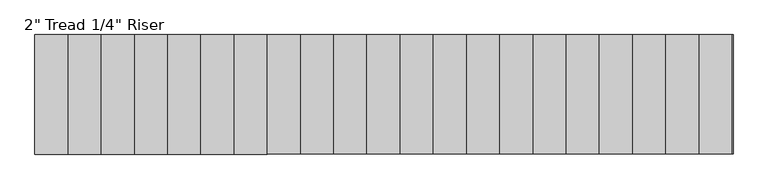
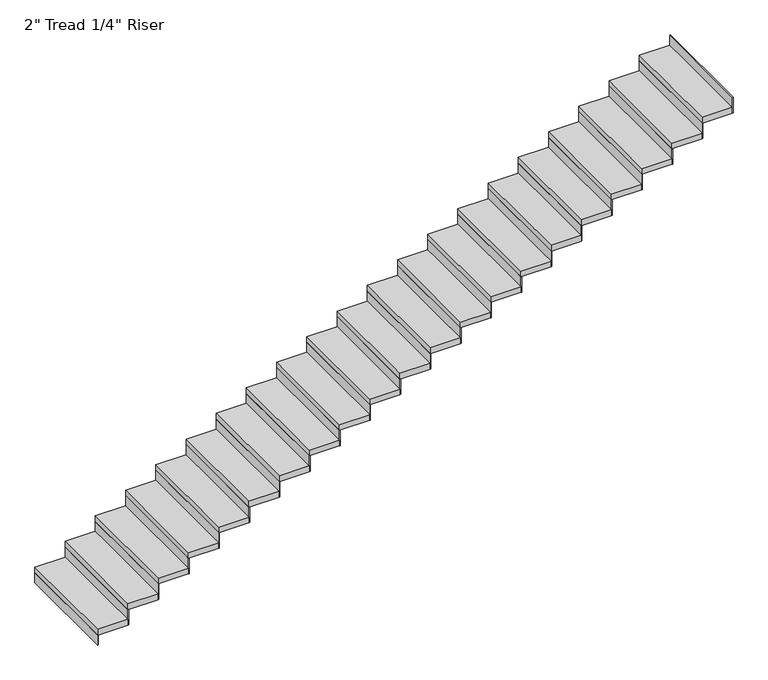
"""IFC4 building model written with IfcOpenShell, lengths in millimetres: stair flight geometry."""

from ifc_helpers import new_model, si_unit, frame, origin, origin_with_axes, place, context, project, spatial, polyline, outline, extrude, source, transform, mapped, element, save


def stair_flight_cfc8582b(model_context):
    return source(origin(), model_context, "Body", "SweptSolid", [
        extrude(outline(polyline([(60465.2405484, 34007.0395941), (60458.8905484, 34007.0395941), (60458.8905484, 34921.4395941), (60465.2405484, 34921.4395941), (60465.2405484, 34007.0395941)])), origin_with_axes(), (0.0, 0.0, 1.0), 87.7454545),
        extrude(outline(polyline([(60712.8905484, 34921.4395941), (60712.8905484, 34007.0395941), (60458.8905484, 34007.0395941), (60458.8905484, 34921.4395941), (60712.8905484, 34921.4395941)])), frame((0.0, 0.0, 87.7454545), z_axis=(0.0, 0.0, 1.0), x_axis=(1.0, 0.0, 0.0)), (0.0, 0.0, 1.0), 50.8),
        extrude(outline(polyline([(60719.2405484, 34007.0395941), (60712.8905484, 34007.0395941), (60712.8905484, 34921.4395941), (60719.2405484, 34921.4395941), (60719.2405484, 34007.0395941)])), frame((0.0, 0.0, 87.7454545), z_axis=(0.0, 0.0, 1.0), x_axis=(1.0, 0.0, 0.0)), (0.0, 0.0, 1.0), 138.5454545),
        extrude(outline(polyline([(60966.8905484, 34921.4395941), (60966.8905484, 34007.0395941), (60712.8905484, 34007.0395941), (60712.8905484, 34921.4395941), (60966.8905484, 34921.4395941)])), frame((0.0, 0.0, 226.2909091), z_axis=(0.0, 0.0, 1.0), x_axis=(1.0, 0.0, 0.0)), (0.0, 0.0, 1.0), 50.8),
        extrude(outline(polyline([(60973.2405484, 34007.0395941), (60966.8905484, 34007.0395941), (60966.8905484, 34921.4395941), (60973.2405484, 34921.4395941), (60973.2405484, 34007.0395941)])), frame((0.0, 0.0, 226.2909091), z_axis=(0.0, 0.0, 1.0), x_axis=(1.0, 0.0, 0.0)), (0.0, 0.0, 1.0), 138.5454545),
        extrude(outline(polyline([(61220.8905484, 34921.4395941), (61220.8905484, 34007.0395941), (60966.8905484, 34007.0395941), (60966.8905484, 34921.4395941), (61220.8905484, 34921.4395941)])), frame((0.0, 0.0, 364.8363636), z_axis=(0.0, 0.0, 1.0), x_axis=(1.0, 0.0, 0.0)), (0.0, 0.0, 1.0), 50.8),
        extrude(outline(polyline([(61227.2405484, 34007.0395941), (61220.8905484, 34007.0395941), (61220.8905484, 34921.4395941), (61227.2405484, 34921.4395941), (61227.2405484, 34007.0395941)])), frame((0.0, 0.0, 364.8363636), z_axis=(0.0, 0.0, 1.0), x_axis=(1.0, 0.0, 0.0)), (0.0, 0.0, 1.0), 138.5454545),
        extrude(outline(polyline([(61474.8905484, 34921.4395941), (61474.8905484, 34007.0395941), (61220.8905484, 34007.0395941), (61220.8905484, 34921.4395941), (61474.8905484, 34921.4395941)])), frame((0.0, 0.0, 503.3818182), z_axis=(0.0, 0.0, 1.0), x_axis=(1.0, 0.0, 0.0)), (0.0, 0.0, 1.0), 50.8),
        extrude(outline(polyline([(61481.2405484, 34007.0395941), (61474.8905484, 34007.0395941), (61474.8905484, 34921.4395941), (61481.2405484, 34921.4395941), (61481.2405484, 34007.0395941)])), frame((0.0, 0.0, 503.3818182), z_axis=(0.0, 0.0, 1.0), x_axis=(1.0, 0.0, 0.0)), (0.0, 0.0, 1.0), 138.5454545),
        extrude(outline(polyline([(61728.8905484, 34921.4395941), (61728.8905484, 34007.0395941), (61474.8905484, 34007.0395941), (61474.8905484, 34921.4395941), (61728.8905484, 34921.4395941)])), frame((0.0, 0.0, 641.9272727), z_axis=(0.0, 0.0, 1.0), x_axis=(1.0, 0.0, 0.0)), (0.0, 0.0, 1.0), 50.8),
        extrude(outline(polyline([(61735.2405484, 34007.0395941), (61728.8905484, 34007.0395941), (61728.8905484, 34921.4395941), (61735.2405484, 34921.4395941), (61735.2405484, 34007.0395941)])), frame((0.0, 0.0, 641.9272727), z_axis=(0.0, 0.0, 1.0), x_axis=(1.0, 0.0, 0.0)), (0.0, 0.0, 1.0), 138.5454545),
        extrude(outline(polyline([(61982.8905484, 34921.4395941), (61982.8905484, 34007.0395941), (61728.8905484, 34007.0395941), (61728.8905484, 34921.4395941), (61982.8905484, 34921.4395941)])), frame((0.0, 0.0, 780.4727273), z_axis=(0.0, 0.0, 1.0), x_axis=(1.0, 0.0, 0.0)), (0.0, 0.0, 1.0), 50.8),
        extrude(outline(polyline([(61989.2405484, 34007.0395941), (61982.8905484, 34007.0395941), (61982.8905484, 34921.4395941), (61989.2405484, 34921.4395941), (61989.2405484, 34007.0395941)])), frame((0.0, 0.0, 780.4727273), z_axis=(0.0, 0.0, 1.0), x_axis=(1.0, 0.0, 0.0)), (0.0, 0.0, 1.0), 138.5454545),
        extrude(outline(polyline([(62236.8905484, 34921.4395941), (62236.8905484, 34007.0395941), (61982.8905484, 34007.0395941), (61982.8905484, 34921.4395941), (62236.8905484, 34921.4395941)])), frame((0.0, 0.0, 919.0181818), z_axis=(0.0, 0.0, 1.0), x_axis=(1.0, 0.0, 0.0)), (0.0, 0.0, 1.0), 50.8),
        extrude(outline(polyline([(62243.2405484, 34007.0395941), (62236.8905484, 34007.0395941), (62236.8905484, 34921.4395941), (62243.2405484, 34921.4395941), (62243.2405484, 34007.0395941)])), frame((0.0, 0.0, 919.0181818), z_axis=(0.0, 0.0, 1.0), x_axis=(1.0, 0.0, 0.0)), (0.0, 0.0, 1.0), 138.5454545),
        extrude(outline(polyline([(62490.8905484, 34921.4395941), (62490.8905484, 34007.0395941), (62236.8905484, 34007.0395941), (62236.8905484, 34921.4395941), (62490.8905484, 34921.4395941)])), frame((0.0, 0.0, 1057.5636364), z_axis=(0.0, 0.0, 1.0), x_axis=(1.0, 0.0, 0.0)), (0.0, 0.0, 1.0), 50.8),
        extrude(outline(polyline([(62497.2405484, 34007.0395941), (62490.8905484, 34007.0395941), (62490.8905484, 34921.4395941), (62497.2405484, 34921.4395941), (62497.2405484, 34007.0395941)])), frame((0.0, 0.0, 1057.5636364), z_axis=(0.0, 0.0, 1.0), x_axis=(1.0, 0.0, 0.0)), (0.0, 0.0, 1.0), 138.5454545),
        extrude(outline(polyline([(62744.8905484, 34921.4395941), (62744.8905484, 34007.0395941), (62490.8905484, 34007.0395941), (62490.8905484, 34921.4395941), (62744.8905484, 34921.4395941)])), frame((0.0, 0.0, 1196.1090909), z_axis=(0.0, 0.0, 1.0), x_axis=(1.0, 0.0, 0.0)), (0.0, 0.0, 1.0), 50.8),
        extrude(outline(polyline([(62751.2405484, 34007.0395941), (62744.8905484, 34007.0395941), (62744.8905484, 34921.4395941), (62751.2405484, 34921.4395941), (62751.2405484, 34007.0395941)])), frame((0.0, 0.0, 1196.1090909), z_axis=(0.0, 0.0, 1.0), x_axis=(1.0, 0.0, 0.0)), (0.0, 0.0, 1.0), 138.5454545),
        extrude(outline(polyline([(62998.8905484, 34921.4395941), (62998.8905484, 34007.0395941), (62744.8905484, 34007.0395941), (62744.8905484, 34921.4395941), (62998.8905484, 34921.4395941)])), frame((0.0, 0.0, 1334.6545455), z_axis=(0.0, 0.0, 1.0), x_axis=(1.0, 0.0, 0.0)), (0.0, 0.0, 1.0), 50.8),
        extrude(outline(polyline([(63005.2405484, 34007.0395941), (62998.8905484, 34007.0395941), (62998.8905484, 34921.4395941), (63005.2405484, 34921.4395941), (63005.2405484, 34007.0395941)])), frame((0.0, 0.0, 1334.6545455), z_axis=(0.0, 0.0, 1.0), x_axis=(1.0, 0.0, 0.0)), (0.0, 0.0, 1.0), 138.5454545),
        extrude(outline(polyline([(63252.8905484, 34921.4395941), (63252.8905484, 34007.0395941), (62998.8905484, 34007.0395941), (62998.8905484, 34921.4395941), (63252.8905484, 34921.4395941)])), frame((0.0, 0.0, 1473.2), z_axis=(0.0, 0.0, 1.0), x_axis=(1.0, 0.0, 0.0)), (0.0, 0.0, 1.0), 50.8),
        extrude(outline(polyline([(63259.2405484, 34007.0395941), (63252.8905484, 34007.0395941), (63252.8905484, 34921.4395941), (63259.2405484, 34921.4395941), (63259.2405484, 34007.0395941)])), frame((0.0, 0.0, 1473.2), z_axis=(0.0, 0.0, 1.0), x_axis=(1.0, 0.0, 0.0)), (0.0, 0.0, 1.0), 138.5454545),
        extrude(outline(polyline([(63506.8905484, 34921.4395941), (63506.8905484, 34007.0395941), (63252.8905484, 34007.0395941), (63252.8905484, 34921.4395941), (63506.8905484, 34921.4395941)])), frame((0.0, 0.0, 1611.7454545), z_axis=(0.0, 0.0, 1.0), x_axis=(1.0, 0.0, 0.0)), (0.0, 0.0, 1.0), 50.8),
        extrude(outline(polyline([(63513.2405484, 34007.0395941), (63506.8905484, 34007.0395941), (63506.8905484, 34921.4395941), (63513.2405484, 34921.4395941), (63513.2405484, 34007.0395941)])), frame((0.0, 0.0, 1611.7454545), z_axis=(0.0, 0.0, 1.0), x_axis=(1.0, 0.0, 0.0)), (0.0, 0.0, 1.0), 138.5454545),
        extrude(outline(polyline([(63760.8905484, 34921.4395941), (63760.8905484, 34007.0395941), (63506.8905484, 34007.0395941), (63506.8905484, 34921.4395941), (63760.8905484, 34921.4395941)])), frame((0.0, 0.0, 1750.2909091), z_axis=(0.0, 0.0, 1.0), x_axis=(1.0, 0.0, 0.0)), (0.0, 0.0, 1.0), 50.8),
        extrude(outline(polyline([(63767.2405484, 34007.0395941), (63760.8905484, 34007.0395941), (63760.8905484, 34921.4395941), (63767.2405484, 34921.4395941), (63767.2405484, 34007.0395941)])), frame((0.0, 0.0, 1750.2909091), z_axis=(0.0, 0.0, 1.0), x_axis=(1.0, 0.0, 0.0)), (0.0, 0.0, 1.0), 138.5454545),
        extrude(outline(polyline([(64014.8905484, 34921.4395941), (64014.8905484, 34007.0395941), (63760.8905484, 34007.0395941), (63760.8905484, 34921.4395941), (64014.8905484, 34921.4395941)])), frame((0.0, 0.0, 1888.8363636), z_axis=(0.0, 0.0, 1.0), x_axis=(1.0, 0.0, 0.0)), (0.0, 0.0, 1.0), 50.8),
        extrude(outline(polyline([(64021.2405484, 34007.0395941), (64014.8905484, 34007.0395941), (64014.8905484, 34921.4395941), (64021.2405484, 34921.4395941), (64021.2405484, 34007.0395941)])), frame((0.0, 0.0, 1888.8363636), z_axis=(0.0, 0.0, 1.0), x_axis=(1.0, 0.0, 0.0)), (0.0, 0.0, 1.0), 138.5454545),
        extrude(outline(polyline([(64268.8905484, 34921.4395941), (64268.8905484, 34007.0395941), (64014.8905484, 34007.0395941), (64014.8905484, 34921.4395941), (64268.8905484, 34921.4395941)])), frame((0.0, 0.0, 2027.3818182), z_axis=(0.0, 0.0, 1.0), x_axis=(1.0, 0.0, 0.0)), (0.0, 0.0, 1.0), 50.8),
        extrude(outline(polyline([(64275.2405484, 34007.0395941), (64268.8905484, 34007.0395941), (64268.8905484, 34921.4395941), (64275.2405484, 34921.4395941), (64275.2405484, 34007.0395941)])), frame((0.0, 0.0, 2027.3818182), z_axis=(0.0, 0.0, 1.0), x_axis=(1.0, 0.0, 0.0)), (0.0, 0.0, 1.0), 138.5454545),
        extrude(outline(polyline([(64522.8905484, 34921.4395941), (64522.8905484, 34007.0395941), (64268.8905484, 34007.0395941), (64268.8905484, 34921.4395941), (64522.8905484, 34921.4395941)])), frame((0.0, 0.0, 2165.9272727), z_axis=(0.0, 0.0, 1.0), x_axis=(1.0, 0.0, 0.0)), (0.0, 0.0, 1.0), 50.8),
        extrude(outline(polyline([(64529.2405484, 34007.0395941), (64522.8905484, 34007.0395941), (64522.8905484, 34921.4395941), (64529.2405484, 34921.4395941), (64529.2405484, 34007.0395941)])), frame((0.0, 0.0, 2165.9272727), z_axis=(0.0, 0.0, 1.0), x_axis=(1.0, 0.0, 0.0)), (0.0, 0.0, 1.0), 138.5454545),
        extrude(outline(polyline([(64776.8905484, 34921.4395941), (64776.8905484, 34007.0395941), (64522.8905484, 34007.0395941), (64522.8905484, 34921.4395941), (64776.8905484, 34921.4395941)])), frame((0.0, 0.0, 2304.4727273), z_axis=(0.0, 0.0, 1.0), x_axis=(1.0, 0.0, 0.0)), (0.0, 0.0, 1.0), 50.8),
        extrude(outline(polyline([(64783.2405484, 34007.0395941), (64776.8905484, 34007.0395941), (64776.8905484, 34921.4395941), (64783.2405484, 34921.4395941), (64783.2405484, 34007.0395941)])), frame((0.0, 0.0, 2304.4727273), z_axis=(0.0, 0.0, 1.0), x_axis=(1.0, 0.0, 0.0)), (0.0, 0.0, 1.0), 138.5454545),
        extrude(outline(polyline([(65030.8905484, 34921.4395941), (65030.8905484, 34007.0395941), (64776.8905484, 34007.0395941), (64776.8905484, 34921.4395941), (65030.8905484, 34921.4395941)])), frame((0.0, 0.0, 2443.0181818), z_axis=(0.0, 0.0, 1.0), x_axis=(1.0, 0.0, 0.0)), (0.0, 0.0, 1.0), 50.8),
        extrude(outline(polyline([(65037.2405484, 34007.0395941), (65030.8905484, 34007.0395941), (65030.8905484, 34921.4395941), (65037.2405484, 34921.4395941), (65037.2405484, 34007.0395941)])), frame((0.0, 0.0, 2443.0181818), z_axis=(0.0, 0.0, 1.0), x_axis=(1.0, 0.0, 0.0)), (0.0, 0.0, 1.0), 138.5454545),
        extrude(outline(polyline([(65284.8905484, 34921.4395941), (65284.8905484, 34007.0395941), (65030.8905484, 34007.0395941), (65030.8905484, 34921.4395941), (65284.8905484, 34921.4395941)])), frame((0.0, 0.0, 2581.5636364), z_axis=(0.0, 0.0, 1.0), x_axis=(1.0, 0.0, 0.0)), (0.0, 0.0, 1.0), 50.8),
        extrude(outline(polyline([(65291.2405484, 34007.0395941), (65284.8905484, 34007.0395941), (65284.8905484, 34921.4395941), (65291.2405484, 34921.4395941), (65291.2405484, 34007.0395941)])), frame((0.0, 0.0, 2581.5636364), z_axis=(0.0, 0.0, 1.0), x_axis=(1.0, 0.0, 0.0)), (0.0, 0.0, 1.0), 138.5454545),
        extrude(outline(polyline([(65538.8905484, 34921.4395941), (65538.8905484, 34007.0395941), (65284.8905484, 34007.0395941), (65284.8905484, 34921.4395941), (65538.8905484, 34921.4395941)])), frame((0.0, 0.0, 2720.1090909), z_axis=(0.0, 0.0, 1.0), x_axis=(1.0, 0.0, 0.0)), (0.0, 0.0, 1.0), 50.8),
        extrude(outline(polyline([(65545.2405484, 34007.0395941), (65538.8905484, 34007.0395941), (65538.8905484, 34921.4395941), (65545.2405484, 34921.4395941), (65545.2405484, 34007.0395941)])), frame((0.0, 0.0, 2720.1090909), z_axis=(0.0, 0.0, 1.0), x_axis=(1.0, 0.0, 0.0)), (0.0, 0.0, 1.0), 138.5454545),
        extrude(outline(polyline([(65799.2405484, 34007.0395941), (65792.8905484, 34007.0395941), (65792.8905484, 34921.4395941), (65799.2405484, 34921.4395941), (65799.2405484, 34007.0395941)])), frame((0.0, 0.0, 2858.6545455), z_axis=(0.0, 0.0, 1.0), x_axis=(1.0, 0.0, 0.0)), (0.0, 0.0, 1.0), 138.5454545),
        extrude(outline(polyline([(65792.8905484, 34921.4395941), (65792.8905484, 34007.0395941), (65538.8905484, 34007.0395941), (65538.8905484, 34921.4395941), (65792.8905484, 34921.4395941)])), frame((0.0, 0.0, 2858.6545455), z_axis=(0.0, 0.0, 1.0), x_axis=(1.0, 0.0, 0.0)), (0.0, 0.0, 1.0), 50.8),
    ])


if __name__ == "__main__":
    model = new_model("IFC4")
    model_context = context("Model", 3, world=origin())
    ifc_project = project(units=[si_unit("LENGTHUNIT", "METRE", prefix="MILLI")], contexts=[model_context])
    site = spatial("IfcSite", under=ifc_project)
    building = spatial("IfcBuilding", under=site)
    placement = place(None, origin())
    stair_flight_shape = stair_flight_cfc8582b(model_context)
    element("IfcStairFlight", 1, ObjectType="2\" Tread 1/4\" Riser", at=placement, inside=building, context=model_context, shape_type="MappedRepresentation", body=[
        mapped(stair_flight_shape, transform((0.0, 0.0, 0.0), x_axis=(1.0, 0.0, 0.0), y_axis=(0.0, 1.0, 0.0), z_axis=(0.0, 0.0, 1.0))),
    ])
    save(model, "model.ifc")
